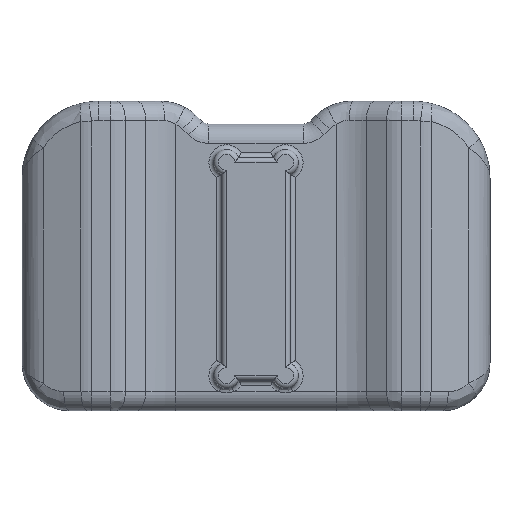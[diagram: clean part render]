
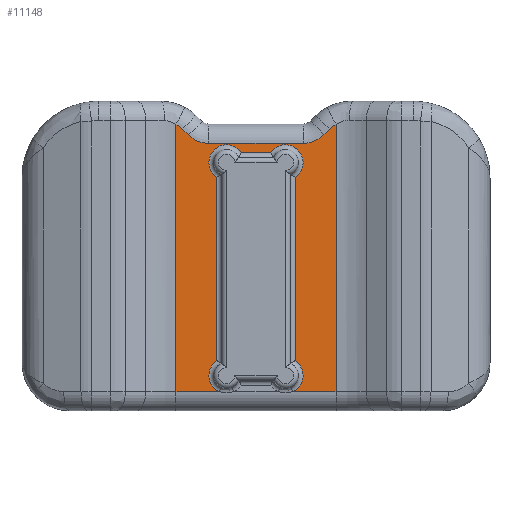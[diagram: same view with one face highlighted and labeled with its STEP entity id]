
A CAD part, front view. The second image highlights one B-rep face of the part: STEP entity #11148.
In plain terms, the highlighted planar face has unit normal (0, -1, 0).
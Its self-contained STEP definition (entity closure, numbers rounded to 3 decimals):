
#3649=CARTESIAN_POINT('',(31.068,-15.,37.834));
#3672=CARTESIAN_POINT('',(-5.407,-15.,-45.488));
#3752=CARTESIAN_POINT('',(-3.089,-15.,-40.5));
#3753=DIRECTION('',(0.,-1.,0.));
#3754=DIRECTION('',(-0.545,0.,0.838));
#3755=AXIS2_PLACEMENT_3D('',#3752,#3753,#3754);
#3757=DIRECTION('',(-1.,0.,0.));
#3758=VECTOR('',#3757,13.44);
#3759=CARTESIAN_POINT('',(-5.407,-15.,-45.488));
#3760=LINE('',#3759,#3758);
#3761=DIRECTION('',(0.,0.,1.));
#3762=VECTOR('',#3761,83.321);
#3763=CARTESIAN_POINT('',(-18.847,-15.,-45.488));
#3764=LINE('',#3763,#3762);
#3765=CARTESIAN_POINT('',(-23.85,-15.,28.397));
#3766=DIRECTION('',(0.,-1.,0.));
#3767=DIRECTION('',(0.662,0.,0.749));
#3768=AXIS2_PLACEMENT_3D('',#3765,#3766,#3767);
#3770=DIRECTION('',(0.707,0.,-0.707));
#3771=VECTOR('',#3770,2.596);
#3772=CARTESIAN_POINT('',(-16.779,-15.,36.402));
#3773=LINE('',#3772,#3771);
#3774=CARTESIAN_POINT('',(-8.632,-15.,40.877));
#3775=DIRECTION('',(0.,-1.,0.));
#3776=DIRECTION('',(-0.707,0.,-0.707));
#3777=AXIS2_PLACEMENT_3D('',#3774,#3775,#3776);
#3779=DIRECTION('',(1.,0.,0.));
#3780=VECTOR('',#3779,29.485);
#3781=CARTESIAN_POINT('',(-8.632,-15.,31.952));
#3782=LINE('',#3781,#3780);
#3783=CARTESIAN_POINT('',(20.853,-15.,40.877));
#3784=DIRECTION('',(0.,-1.,0.));
#3785=DIRECTION('',(0.,0.,-1.));
#3786=AXIS2_PLACEMENT_3D('',#3783,#3784,#3785);
#3788=DIRECTION('',(0.707,0.,0.707));
#3789=VECTOR('',#3788,2.318);
#3790=CARTESIAN_POINT('',(27.324,-15.,34.73));
#3791=LINE('',#3790,#3789);
#3792=CARTESIAN_POINT('',(36.072,-15.,28.397));
#3793=DIRECTION('',(0.,1.,0.));
#3794=DIRECTION('',(-0.666,0.,0.746));
#3795=AXIS2_PLACEMENT_3D('',#3792,#3793,#3794);
#3797=DIRECTION('',(0.,0.,1.));
#3798=VECTOR('',#3797,83.321);
#3799=CARTESIAN_POINT('',(31.068,-15.,-45.488));
#3800=LINE('',#3799,#3798);
#3801=DIRECTION('',(-1.,0.,0.));
#3802=VECTOR('',#3801,13.44);
#3803=CARTESIAN_POINT('',(31.068,-15.,-45.488));
#3804=LINE('',#3803,#3802);
#3805=CARTESIAN_POINT('',(15.311,-15.,-40.5));
#3806=DIRECTION('',(0.,-1.,0.));
#3807=DIRECTION('',(0.421,0.,-0.907));
#3808=AXIS2_PLACEMENT_3D('',#3805,#3806,#3807);
#3810=DIRECTION('',(0.,0.,1.));
#3811=VECTOR('',#3810,57.28);
#3812=CARTESIAN_POINT('',(18.311,-15.,-35.89));
#3813=LINE('',#3812,#3811);
#3814=DIRECTION('',(-1.,0.,0.));
#3815=VECTOR('',#3814,9.18);
#3816=CARTESIAN_POINT('',(10.701,-15.,29.));
#3817=LINE('',#3816,#3815);
#3818=DIRECTION('',(0.,0.,-1.));
#3819=VECTOR('',#3818,57.28);
#3820=CARTESIAN_POINT('',(-6.089,-15.,21.39));
#3821=LINE('',#3820,#3819);
#3975=CARTESIAN_POINT('',(15.311,-15.,26.));
#3976=DIRECTION('',(0.,1.,0.));
#3977=DIRECTION('',(-0.838,0.,0.545));
#3978=AXIS2_PLACEMENT_3D('',#3975,#3976,#3977);
#4060=CARTESIAN_POINT('',(-3.089,-15.,26.));
#4061=DIRECTION('',(0.,1.,0.));
#4062=DIRECTION('',(-0.545,0.,-0.838));
#4063=AXIS2_PLACEMENT_3D('',#4060,#4061,#4062);
#4134=CARTESIAN_POINT('',(-18.847,-15.,37.834));
#4333=CARTESIAN_POINT('',(31.068,-15.,-45.488));
#4334=VERTEX_POINT('',#4333);
#4340=CARTESIAN_POINT('',(-18.847,-15.,-45.488));
#4342=VERTEX_POINT('',#4340);
#4379=VERTEX_POINT('',#3649);
#4382=CARTESIAN_POINT('',(28.963,-15.,36.369));
#4383=VERTEX_POINT('',#4382);
#4384=CARTESIAN_POINT('',(27.324,-15.,34.73));
#4385=VERTEX_POINT('',#4384);
#4407=VERTEX_POINT('',#4134);
#4408=CARTESIAN_POINT('',(-16.779,-15.,36.402));
#4409=VERTEX_POINT('',#4408);
#4412=CARTESIAN_POINT('',(20.853,-15.,31.952));
#4413=VERTEX_POINT('',#4412);
#4420=CARTESIAN_POINT('',(-14.943,-15.,34.566));
#4421=CARTESIAN_POINT('',(-8.632,-15.,31.952));
#4422=VERTEX_POINT('',#4420);
#4423=VERTEX_POINT('',#4421);
#5244=VERTEX_POINT('',#3672);
#5248=CARTESIAN_POINT('',(-6.089,-15.,-35.89));
#5249=VERTEX_POINT('',#5248);
#5254=CARTESIAN_POINT('',(17.629,-15.,-45.488));
#5255=CARTESIAN_POINT('',(18.311,-15.,-35.89));
#5256=VERTEX_POINT('',#5254);
#5257=VERTEX_POINT('',#5255);
#5266=CARTESIAN_POINT('',(18.311,-15.,21.39));
#5267=VERTEX_POINT('',#5266);
#5268=CARTESIAN_POINT('',(10.701,-15.,29.));
#5269=CARTESIAN_POINT('',(1.521,-15.,29.));
#5270=VERTEX_POINT('',#5268);
#5271=VERTEX_POINT('',#5269);
#5276=CARTESIAN_POINT('',(-6.089,-15.,21.39));
#5277=VERTEX_POINT('',#5276);
#11109=CARTESIAN_POINT('',(-23.889,-15.,-51.488));
#11110=DIRECTION('',(0.,1.,0.));
#11111=DIRECTION('',(1.,0.,0.));
#11112=AXIS2_PLACEMENT_3D('',#11109,#11110,#11111);
#11113=PLANE('',#11112);
#11114=ORIENTED_EDGE('',*,*,#11056,.T.);
#11115=ORIENTED_EDGE('',*,*,#10996,.T.);
#11117=ORIENTED_EDGE('',*,*,#11116,.T.);
#11119=ORIENTED_EDGE('',*,*,#11118,.F.);
#11121=ORIENTED_EDGE('',*,*,#11120,.T.);
#11123=ORIENTED_EDGE('',*,*,#11122,.T.);
#11125=ORIENTED_EDGE('',*,*,#11124,.T.);
#11127=ORIENTED_EDGE('',*,*,#11126,.T.);
#11129=ORIENTED_EDGE('',*,*,#11128,.T.);
#11131=ORIENTED_EDGE('',*,*,#11130,.T.);
#11132=ORIENTED_EDGE('',*,*,#10944,.F.);
#11133=ORIENTED_EDGE('',*,*,#10990,.T.);
#11135=ORIENTED_EDGE('',*,*,#11134,.T.);
#11137=ORIENTED_EDGE('',*,*,#11136,.T.);
#11139=ORIENTED_EDGE('',*,*,#11138,.F.);
#11141=ORIENTED_EDGE('',*,*,#11140,.T.);
#11143=ORIENTED_EDGE('',*,*,#11142,.F.);
#11145=ORIENTED_EDGE('',*,*,#11144,.T.);
#11146=EDGE_LOOP('',(#11114,#11115,#11117,#11119,#11121,#11123,#11125,#11127,
#11129,#11131,#11132,#11133,#11135,#11137,#11139,#11141,#11143,#11145));
#11147=FACE_OUTER_BOUND('',#11146,.F.);
#11148=ADVANCED_FACE('',(#11147),#11113,.F.);
#3756=CIRCLE('',#3755,5.5);
#3769=CIRCLE('',#3768,10.681);
#3778=CIRCLE('',#3777,8.925);
#3787=CIRCLE('',#3786,8.925);
#3796=CIRCLE('',#3795,10.681);
#3809=CIRCLE('',#3808,5.5);
#3979=CIRCLE('',#3978,5.5);
#4064=CIRCLE('',#4063,5.5);
#10944=EDGE_CURVE('',#4334,#4379,#3800,.T.);
#10990=EDGE_CURVE('',#4334,#5256,#3804,.T.);
#10996=EDGE_CURVE('',#5244,#4342,#3760,.T.);
#11056=EDGE_CURVE('',#5249,#5244,#3756,.T.);
#11116=EDGE_CURVE('',#4342,#4407,#3764,.T.);
#11118=EDGE_CURVE('',#4409,#4407,#3769,.T.);
#11120=EDGE_CURVE('',#4409,#4422,#3773,.T.);
#11122=EDGE_CURVE('',#4422,#4423,#3778,.T.);
#11124=EDGE_CURVE('',#4423,#4413,#3782,.T.);
#11126=EDGE_CURVE('',#4413,#4385,#3787,.T.);
#11128=EDGE_CURVE('',#4385,#4383,#3791,.T.);
#11130=EDGE_CURVE('',#4383,#4379,#3796,.T.);
#11134=EDGE_CURVE('',#5256,#5257,#3809,.T.);
#11136=EDGE_CURVE('',#5257,#5267,#3813,.T.);
#11138=EDGE_CURVE('',#5270,#5267,#3979,.T.);
#11140=EDGE_CURVE('',#5270,#5271,#3817,.T.);
#11142=EDGE_CURVE('',#5277,#5271,#4064,.T.);
#11144=EDGE_CURVE('',#5277,#5249,#3821,.T.);
